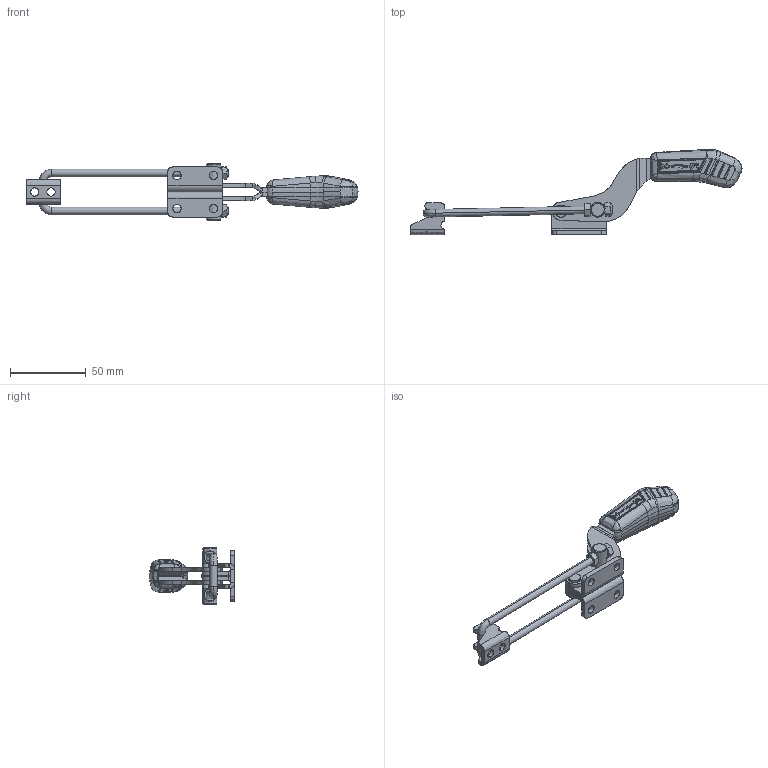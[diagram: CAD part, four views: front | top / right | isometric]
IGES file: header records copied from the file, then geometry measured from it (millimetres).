
Start section: SolidWorks IGES file using analytic representation for surfaces
Global section: file name: C:\Projetos\Grampos\KF-643\KF-643 DL\KF-643 DL.IGS; native system: SolidWorks 2015; preprocessor: SolidWorks 2015; author: Ricardo; date: 171005.090525; units: millimetre
Bounding box: 219.11 x 56.36 x 37 mm (x, y, z)
Surface area: 28915.9 mm2 (no closed solid volume)
Topology: 0 solids, 0 shells, 924 faces, 9220 edges, 9165 vertices
Faces by surface type: bspline 526, revolution 398
